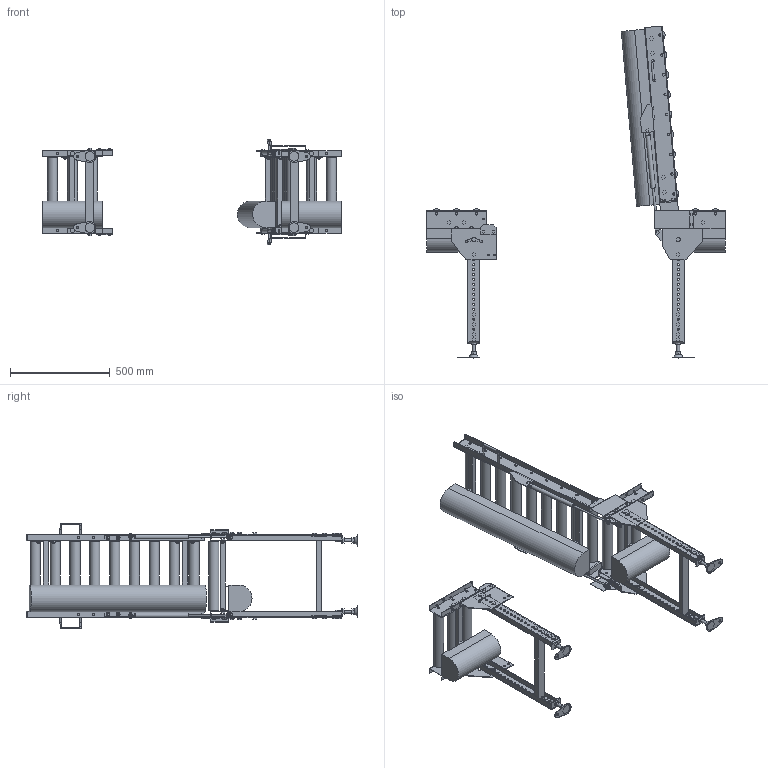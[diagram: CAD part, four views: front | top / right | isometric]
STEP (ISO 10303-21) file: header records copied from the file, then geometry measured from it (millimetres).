
FILE_DESCRIPTION (( 'STEP AP214' ), '1' );
FILE_NAME ('MCD50HU-R-355-100-900.STEP', '2022-11-17T08:42:02', ( '' ), ( '' ), 'SwSTEP 2.0', 'SolidWorks 2017', '' );
FILE_SCHEMA (( 'AUTOMOTIVE_DESIGN' ));
Length unit declared in the file: millimetre
Products named in the file (1): MCD50HU-R-355-100-900
Bounding box: 1500 x 1665.85 x 531.39 mm (x, y, z)
Volume: 36444190.6 mm3; surface area: 3904475 mm2
Topology: 5 solids, 31 shells, 2549 faces, 6313 edges, 4019 vertices
Faces by surface type: plane 2105, cylinder 426, cone 10, torus 8
Full cylindrical faces by diameter (mm): 8 x8, 8.5 x8, 9 x20, 10 x58, 10.5 x96, 11 x8, 12 x32, 13 x12, 14 x4, 15 x6, 15.4 x2, 15.7 x2, 16 x10, 17 x4, 18 x6, 18.4 x28, 18.5 x8, 21 x12, 22 x2, 50.8 x15
Entity records: 73446 total; most frequent: CARTESIAN_POINT 12559, DIRECTION 12262, ORIENTED_EDGE 11560, EDGE_CURVE 5780, LINE 4390, VECTOR 4390, AXIS2_PLACEMENT_3D 3936, VERTEX_POINT 3845
